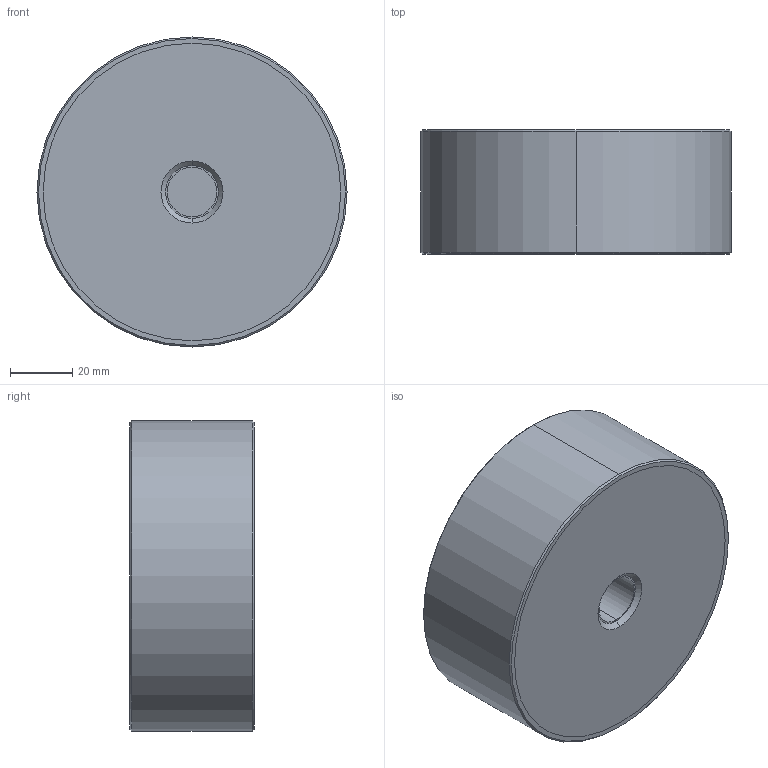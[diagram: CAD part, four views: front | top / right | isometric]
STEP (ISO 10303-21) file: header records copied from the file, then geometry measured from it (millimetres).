
FILE_DESCRIPTION (( 'STEP AP203' ), '1' );
FILE_NAME ('61080.W0901.step', '2018-07-16T20:47:06', ( '' ), ( '' ), 'SwSTEP 2.0', 'SolidWorks 2017', '' );
FILE_SCHEMA (( 'CONFIG_CONTROL_DESIGN' ));
Length unit declared in the file: millimetre
Products named in the file (4): Part2_61080.W0901; Part3_61080.W0901; Part1_61080.W0901; 61080.W0901
Assembly tree (3 placements, depth 2):
  61080.W0901
    Part1_61080.W0901
    Part2_61080.W0901
    Part3_61080.W0901
Bounding box: 100 x 40 x 100 mm (x, y, z)
Volume: 307442 mm3; surface area: 59474.1 mm2
Topology: 3 solids, 3 shells, 32 faces, 62 edges, 40 vertices
Faces by surface type: cylinder 14, plane 10, cone 8
Entity records: 1256 total; most frequent: DIRECTION 178, CARTESIAN_POINT 140, ORIENTED_EDGE 124, AXIS2_PLACEMENT_3D 78, EDGE_CURVE 62, VERTEX_POINT 40, CIRCLE 40, EDGE_LOOP 40
